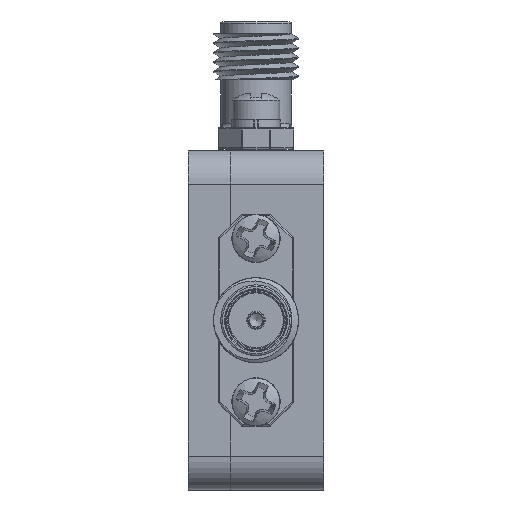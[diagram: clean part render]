
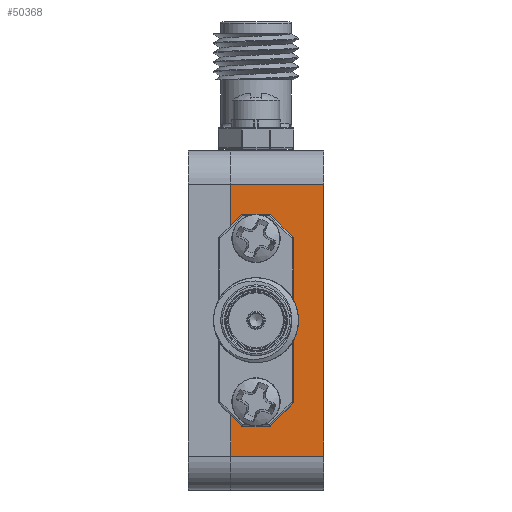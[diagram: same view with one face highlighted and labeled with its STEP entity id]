
A CAD part, left-side view. The second image highlights one B-rep face of the part: STEP entity #50368.
In plain terms, the highlighted planar face has unit normal (-1, 0, 0).
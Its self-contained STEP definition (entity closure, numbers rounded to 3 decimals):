
#2302 = CARTESIAN_POINT ( 'NONE',  ( 0., 5.08, 13.983 ) ) ;
#6234 = EDGE_CURVE ( 'NONE', #82599, #8028, #94818, .T. ) ;
#7412 = CARTESIAN_POINT ( 'NONE',  ( 0., 5.08, 18.809 ) ) ;
#7661 = AXIS2_PLACEMENT_3D ( 'NONE', #11472, #19821, #20348 ) ;
#8028 = VERTEX_POINT ( 'NONE', #71403 ) ;
#8409 = VERTEX_POINT ( 'NONE', #57743 ) ;
#8844 = FACE_BOUND ( 'NONE', #36703, .T. ) ;
#9331 = VECTOR ( 'NONE', #85080, 1000. ) ;
#11472 = CARTESIAN_POINT ( 'NONE',  ( 0., 5.08, 6.591 ) ) ;
#13677 = DIRECTION ( 'NONE',  ( 0., 0., 1. ) ) ;
#14320 = DIRECTION ( 'NONE',  ( 0., 0., 1. ) ) ;
#14350 = CARTESIAN_POINT ( 'NONE',  ( 0., 6.985, 2.54 ) ) ;
#14461 = ORIENTED_EDGE ( 'NONE', *, *, #71665, .T. ) ;
#16131 = FACE_OUTER_BOUND ( 'NONE', #63910, .T. ) ;
#17159 = DIRECTION ( 'NONE',  ( 1., 0., 0. ) ) ;
#18427 = EDGE_CURVE ( 'NONE', #46897, #46897, #49277, .T. ) ;
#19821 = DIRECTION ( 'NONE',  ( -1., 0., 0. ) ) ;
#20348 = DIRECTION ( 'NONE',  ( 0., 0., 1. ) ) ;
#22168 = LINE ( 'NONE', #14350, #57157 ) ;
#22552 = EDGE_CURVE ( 'NONE', #76300, #8028, #79358, .T. ) ;
#24006 = ORIENTED_EDGE ( 'NONE', *, *, #83500, .F. ) ;
#24991 = PLANE ( 'NONE',  #97375 ) ;
#30452 = CARTESIAN_POINT ( 'NONE',  ( 0., 0., 2.54 ) ) ;
#36703 = EDGE_LOOP ( 'NONE', ( #24006 ) ) ;
#38196 = AXIS2_PLACEMENT_3D ( 'NONE', #100725, #91337, #92884 ) ;
#38230 = CARTESIAN_POINT ( 'NONE',  ( 0., 6.985, 22.86 ) ) ;
#41054 = DIRECTION ( 'NONE',  ( 0., 0., -1. ) ) ;
#44732 = CIRCLE ( 'NONE', #38196, 1.283 ) ;
#46897 = VERTEX_POINT ( 'NONE', #86898 ) ;
#47697 = EDGE_CURVE ( 'NONE', #8409, #76300, #22168, .T. ) ;
#49277 = CIRCLE ( 'NONE', #99106, 1.092 ) ;
#49437 = VECTOR ( 'NONE', #14320, 1000. ) ;
#50129 = ORIENTED_EDGE ( 'NONE', *, *, #6234, .T. ) ;
#50368 = ADVANCED_FACE ( 'NONE', ( #8844, #64443, #55635, #16131 ), #24991, .F. ) ;
#53093 = EDGE_LOOP ( 'NONE', ( #90192 ) ) ;
#53832 = DIRECTION ( 'NONE',  ( 0., 0., 1. ) ) ;
#55175 = CARTESIAN_POINT ( 'NONE',  ( 0., 6.985, 2.54 ) ) ;
#55635 = FACE_BOUND ( 'NONE', #53093, .T. ) ;
#56672 = CARTESIAN_POINT ( 'NONE',  ( 0., 6.985, 2.54 ) ) ;
#57157 = VECTOR ( 'NONE', #53832, 1000. ) ;
#57743 = CARTESIAN_POINT ( 'NONE',  ( 0., 6.985, 2.54 ) ) ;
#60448 = CARTESIAN_POINT ( 'NONE',  ( 0., 5.08, 7.683 ) ) ;
#60973 = DIRECTION ( 'NONE',  ( -1., 0., 0. ) ) ;
#62389 = CIRCLE ( 'NONE', #7661, 1.092 ) ;
#63910 = EDGE_LOOP ( 'NONE', ( #50129, #82711, #87824, #14461 ) ) ;
#64443 = FACE_BOUND ( 'NONE', #69131, .T. ) ;
#69131 = EDGE_LOOP ( 'NONE', ( #96652 ) ) ;
#71403 = CARTESIAN_POINT ( 'NONE',  ( 0., 0., 22.86 ) ) ;
#71665 = EDGE_CURVE ( 'NONE', #8409, #82599, #96218, .T. ) ;
#71940 = VERTEX_POINT ( 'NONE', #2302 ) ;
#76300 = VERTEX_POINT ( 'NONE', #38230 ) ;
#77327 = CARTESIAN_POINT ( 'NONE',  ( 0., 6.985, 22.86 ) ) ;
#77794 = EDGE_CURVE ( 'NONE', #71940, #71940, #44732, .T. ) ;
#79358 = LINE ( 'NONE', #77327, #9331 ) ;
#82599 = VERTEX_POINT ( 'NONE', #94785 ) ;
#82711 = ORIENTED_EDGE ( 'NONE', *, *, #22552, .F. ) ;
#83500 = EDGE_CURVE ( 'NONE', #90050, #90050, #62389, .T. ) ;
#85080 = DIRECTION ( 'NONE',  ( 0., -1., 0. ) ) ;
#86898 = CARTESIAN_POINT ( 'NONE',  ( 0., 5.08, 19.901 ) ) ;
#87824 = ORIENTED_EDGE ( 'NONE', *, *, #47697, .F. ) ;
#88708 = VECTOR ( 'NONE', #88874, 1000. ) ;
#88874 = DIRECTION ( 'NONE',  ( 0., -1., 0. ) ) ;
#90050 = VERTEX_POINT ( 'NONE', #60448 ) ;
#90192 = ORIENTED_EDGE ( 'NONE', *, *, #77794, .F. ) ;
#91337 = DIRECTION ( 'NONE',  ( -1., 0., 0. ) ) ;
#92884 = DIRECTION ( 'NONE',  ( 0., 0., 1. ) ) ;
#94785 = CARTESIAN_POINT ( 'NONE',  ( 0., 0., 2.54 ) ) ;
#94818 = LINE ( 'NONE', #30452, #49437 ) ;
#96218 = LINE ( 'NONE', #55175, #88708 ) ;
#96652 = ORIENTED_EDGE ( 'NONE', *, *, #18427, .F. ) ;
#97375 = AXIS2_PLACEMENT_3D ( 'NONE', #56672, #17159, #41054 ) ;
#99106 = AXIS2_PLACEMENT_3D ( 'NONE', #7412, #60973, #13677 ) ;
#100725 = CARTESIAN_POINT ( 'NONE',  ( 0., 5.08, 12.7 ) ) ;
